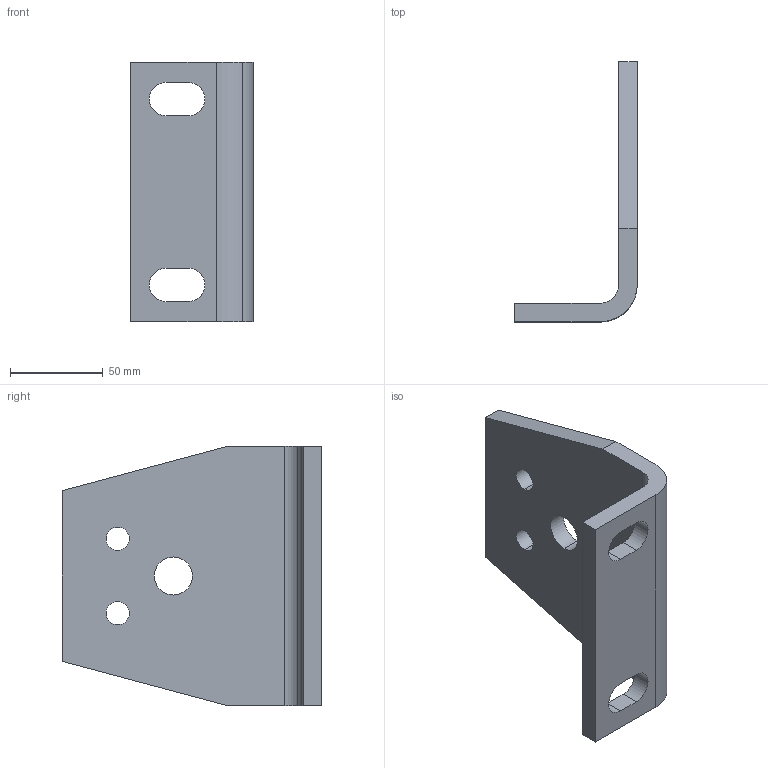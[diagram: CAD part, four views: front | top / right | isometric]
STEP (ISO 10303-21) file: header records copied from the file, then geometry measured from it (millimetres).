
FILE_DESCRIPTION((''),'2;1');
FILE_NAME('D:\ROSTA\Gummifederelemente\3D\WS45-50_06590006.stp','2005-02-04T15:51:17',('Administrator'),(''),'Autodesk Inventor 8','Autodesk Inventor 8','');
FILE_SCHEMA(('AUTOMOTIVE_DESIGN { 1 0 10303 214 1 1 1 1 }'));
Length unit declared in the file: millimetre
Products named in the file (1): WS 45-50
Bounding box: 66 x 140 x 140 mm (x, y, z)
Volume: 228725.7 mm3; surface area: 54960 mm2
Topology: 1 solids, 1 shells, 28 faces, 78 edges, 52 vertices
Faces by surface type: cylinder 14, plane 14
Entity records: 953 total; most frequent: DIRECTION 164, CARTESIAN_POINT 159, ORIENTED_EDGE 156, EDGE_CURVE 78, AXIS2_PLACEMENT_3D 57, VERTEX_POINT 52, VECTOR 50, LINE 50
